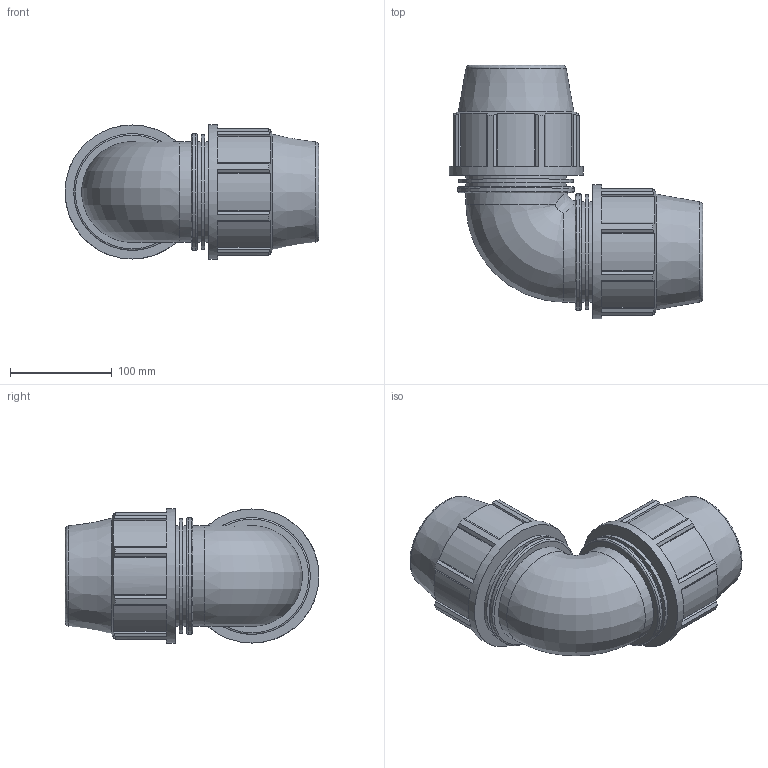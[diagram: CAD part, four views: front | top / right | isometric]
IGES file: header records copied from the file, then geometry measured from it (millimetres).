
Global section: file name: 870500075_180500075_840506075.ipt; native system: Autodesk Inventor 2015; preprocessor: unknown; author: KIM; date: 20180325.201211; units: millimetre
Bounding box: 250 x 250 x 132 mm (x, y, z)
Volume: 1923390.2 mm3; surface area: 251677.6 mm2
Topology: 1 solids, 1 shells, 143 faces, 393 edges, 266 vertices
Faces by surface type: plane 96, cylinder 28, revolution 14, cone 4, bspline 1
Full cylindrical faces by diameter (mm): 99 x4, 112.543 x2, 114.84 x2, 132 x2
